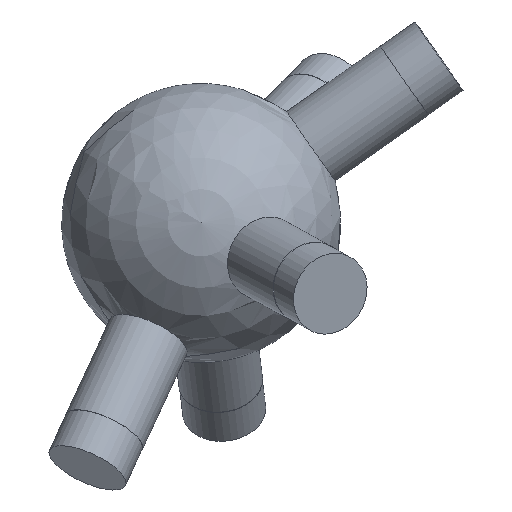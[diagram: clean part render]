
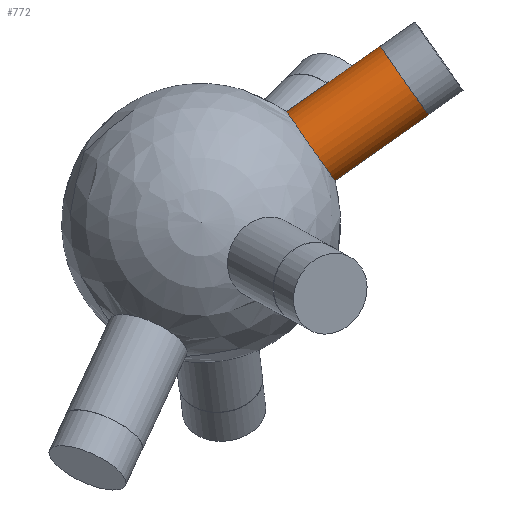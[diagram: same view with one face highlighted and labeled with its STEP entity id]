
A CAD part, top view. The second image highlights one B-rep face of the part: STEP entity #772.
In plain terms, the highlighted cylindrical face has radius 6 mm (diameter 12 mm), a full revolution.
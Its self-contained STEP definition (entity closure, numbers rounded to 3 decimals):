
#33 = SPHERICAL_SURFACE('',#34,20.);
#34 = AXIS2_PLACEMENT_3D('',#35,#36,#37);
#35 = CARTESIAN_POINT('',(0.,0.,0.));
#36 = DIRECTION('',(0.,0.,1.));
#37 = DIRECTION('',(1.,0.,-0.));
#436 = EDGE_CURVE('',#437,#437,#439,.T.);
#437 = VERTEX_POINT('',#438);
#438 = CARTESIAN_POINT('',(12.172,15.868,0.194)
  );
#439 = SURFACE_CURVE('',#440,(#445,#507),.PCURVE_S1.);
#440 = CIRCLE('',#441,6.);
#441 = AXIS2_PLACEMENT_3D('',#442,#443,#444);
#442 = CARTESIAN_POINT('',(15.618,10.956,0.194)
  );
#443 = DIRECTION('',(0.819,0.574,0.01));
#444 = DIRECTION('',(-0.574,0.819,0.)
  );
#445 = PCURVE('',#33,#446);
#446 = DEFINITIONAL_REPRESENTATION('',(#447),#506);
#447 = B_SPLINE_CURVE_WITH_KNOTS('',8,(#448,#449,#450,#451,#452,#453,
    #454,#455,#456,#457,#458,#459,#460,#461,#462,#463,#464,#465,#466,
    #467,#468,#469,#470,#471,#472,#473,#474,#475,#476,#477,#478,#479,
    #480,#481,#482,#483,#484,#485,#486,#487,#488,#489,#490,#491,#492,
    #493,#494,#495,#496,#497,#498,#499,#500,#501,#502,#503,#504,#505),
  .UNSPECIFIED.,.F.,.F.,(9,7,7,7,7,7,7,7,9),(0.,0.785,
    1.473,2.074,3.126,3.915,
    4.507,5.395,6.283),.UNSPECIFIED.);
#448 = CARTESIAN_POINT('',(0.916,0.01));
#449 = CARTESIAN_POINT('',(0.917,0.039));
#450 = CARTESIAN_POINT('',(0.913,0.069));
#451 = CARTESIAN_POINT('',(0.907,0.098));
#452 = CARTESIAN_POINT('',(0.898,0.126));
#453 = CARTESIAN_POINT('',(0.885,0.153));
#454 = CARTESIAN_POINT('',(0.87,0.179));
#455 = CARTESIAN_POINT('',(0.852,0.202));
#456 = CARTESIAN_POINT('',(0.813,0.242));
#457 = CARTESIAN_POINT('',(0.793,0.259));
#458 = CARTESIAN_POINT('',(0.771,0.274));
#459 = CARTESIAN_POINT('',(0.747,0.287));
#460 = CARTESIAN_POINT('',(0.722,0.297));
#461 = CARTESIAN_POINT('',(0.696,0.305));
#462 = CARTESIAN_POINT('',(0.67,0.311));
#463 = CARTESIAN_POINT('',(0.619,0.316));
#464 = CARTESIAN_POINT('',(0.595,0.316));
#465 = CARTESIAN_POINT('',(0.571,0.314));
#466 = CARTESIAN_POINT('',(0.548,0.31));
#467 = CARTESIAN_POINT('',(0.525,0.305));
#468 = CARTESIAN_POINT('',(0.502,0.297));
#469 = CARTESIAN_POINT('',(0.481,0.287));
#470 = CARTESIAN_POINT('',(0.425,0.256));
#471 = CARTESIAN_POINT('',(0.393,0.231));
#472 = CARTESIAN_POINT('',(0.365,0.201));
#473 = CARTESIAN_POINT('',(0.343,0.168));
#474 = CARTESIAN_POINT('',(0.325,0.132));
#475 = CARTESIAN_POINT('',(0.314,0.093));
#476 = CARTESIAN_POINT('',(0.308,0.054));
#477 = CARTESIAN_POINT('',(0.307,-0.015));
#478 = CARTESIAN_POINT('',(0.31,-0.045));
#479 = CARTESIAN_POINT('',(0.316,-0.074));
#480 = CARTESIAN_POINT('',(0.325,-0.103));
#481 = CARTESIAN_POINT('',(0.337,-0.13));
#482 = CARTESIAN_POINT('',(0.352,-0.156));
#483 = CARTESIAN_POINT('',(0.37,-0.18));
#484 = CARTESIAN_POINT('',(0.406,-0.218));
#485 = CARTESIAN_POINT('',(0.423,-0.232));
#486 = CARTESIAN_POINT('',(0.442,-0.246));
#487 = CARTESIAN_POINT('',(0.461,-0.258));
#488 = CARTESIAN_POINT('',(0.482,-0.268));
#489 = CARTESIAN_POINT('',(0.503,-0.277));
#490 = CARTESIAN_POINT('',(0.525,-0.283));
#491 = CARTESIAN_POINT('',(0.582,-0.295));
#492 = CARTESIAN_POINT('',(0.617,-0.298));
#493 = CARTESIAN_POINT('',(0.652,-0.296));
#494 = CARTESIAN_POINT('',(0.687,-0.29));
#495 = CARTESIAN_POINT('',(0.721,-0.279));
#496 = CARTESIAN_POINT('',(0.752,-0.265));
#497 = CARTESIAN_POINT('',(0.781,-0.246));
#498 = CARTESIAN_POINT('',(0.833,-0.203));
#499 = CARTESIAN_POINT('',(0.856,-0.179));
#500 = CARTESIAN_POINT('',(0.876,-0.151));
#501 = CARTESIAN_POINT('',(0.892,-0.121));
#502 = CARTESIAN_POINT('',(0.904,-0.09));
#503 = CARTESIAN_POINT('',(0.912,-0.057));
#504 = CARTESIAN_POINT('',(0.916,-0.024));
#505 = CARTESIAN_POINT('',(0.916,0.01));
#506 = ( GEOMETRIC_REPRESENTATION_CONTEXT(2) 
PARAMETRIC_REPRESENTATION_CONTEXT() REPRESENTATION_CONTEXT('2D SPACE',''
  ) );
#507 = PCURVE('',#508,#513);
#508 = CYLINDRICAL_SURFACE('',#509,6.);
#509 = AXIS2_PLACEMENT_3D('',#510,#511,#512);
#510 = CARTESIAN_POINT('',(0.,0.,0.));
#511 = DIRECTION('',(0.819,0.574,0.01));
#512 = DIRECTION('',(-0.574,0.819,0.)
  );
#513 = DEFINITIONAL_REPRESENTATION('',(#514),#518);
#514 = LINE('',#515,#516);
#515 = CARTESIAN_POINT('',(0.,19.079));
#516 = VECTOR('',#517,1.);
#517 = DIRECTION('',(1.,0.));
#518 = ( GEOMETRIC_REPRESENTATION_CONTEXT(2) 
PARAMETRIC_REPRESENTATION_CONTEXT() REPRESENTATION_CONTEXT('2D SPACE',''
  ) );
#772 = ADVANCED_FACE('',(#773),#508,.T.);
#773 = FACE_BOUND('',#774,.T.);
#774 = EDGE_LOOP('',(#775,#798,#825,#826));
#775 = ORIENTED_EDGE('',*,*,#776,.T.);
#776 = EDGE_CURVE('',#437,#777,#779,.T.);
#777 = VERTEX_POINT('',#778);
#778 = CARTESIAN_POINT('',(25.48,25.204,0.359
    ));
#779 = SEAM_CURVE('',#780,(#784,#791),.PCURVE_S1.);
#780 = LINE('',#781,#782);
#781 = CARTESIAN_POINT('',(-3.446,4.912,
    0.));
#782 = VECTOR('',#783,1.);
#783 = DIRECTION('',(0.819,0.574,0.01));
#784 = PCURVE('',#508,#785);
#785 = DEFINITIONAL_REPRESENTATION('',(#786),#790);
#786 = LINE('',#787,#788);
#787 = CARTESIAN_POINT('',(6.283,-0.));
#788 = VECTOR('',#789,1.);
#789 = DIRECTION('',(0.,1.));
#790 = ( GEOMETRIC_REPRESENTATION_CONTEXT(2) 
PARAMETRIC_REPRESENTATION_CONTEXT() REPRESENTATION_CONTEXT('2D SPACE',''
  ) );
#791 = PCURVE('',#508,#792);
#792 = DEFINITIONAL_REPRESENTATION('',(#793),#797);
#793 = LINE('',#794,#795);
#794 = CARTESIAN_POINT('',(0.,-0.));
#795 = VECTOR('',#796,1.);
#796 = DIRECTION('',(0.,1.));
#797 = ( GEOMETRIC_REPRESENTATION_CONTEXT(2) 
PARAMETRIC_REPRESENTATION_CONTEXT() REPRESENTATION_CONTEXT('2D SPACE',''
  ) );
#798 = ORIENTED_EDGE('',*,*,#799,.F.);
#799 = EDGE_CURVE('',#777,#777,#800,.T.);
#800 = SURFACE_CURVE('',#801,(#806,#813),.PCURVE_S1.);
#801 = CIRCLE('',#802,6.);
#802 = AXIS2_PLACEMENT_3D('',#803,#804,#805);
#803 = CARTESIAN_POINT('',(28.926,20.292,0.359
    ));
#804 = DIRECTION('',(0.819,0.574,0.01));
#805 = DIRECTION('',(-0.574,0.819,0.)
  );
#806 = PCURVE('',#508,#807);
#807 = DEFINITIONAL_REPRESENTATION('',(#808),#812);
#808 = LINE('',#809,#810);
#809 = CARTESIAN_POINT('',(0.,35.336));
#810 = VECTOR('',#811,1.);
#811 = DIRECTION('',(1.,0.));
#812 = ( GEOMETRIC_REPRESENTATION_CONTEXT(2) 
PARAMETRIC_REPRESENTATION_CONTEXT() REPRESENTATION_CONTEXT('2D SPACE',''
  ) );
#813 = PCURVE('',#814,#819);
#814 = PLANE('',#815);
#815 = AXIS2_PLACEMENT_3D('',#816,#817,#818);
#816 = CARTESIAN_POINT('',(28.926,20.292,0.359
    ));
#817 = DIRECTION('',(0.819,0.574,0.01));
#818 = DIRECTION('',(-0.574,0.819,0.)
  );
#819 = DEFINITIONAL_REPRESENTATION('',(#820),#824);
#820 = CIRCLE('',#821,6.);
#821 = AXIS2_PLACEMENT_2D('',#822,#823);
#822 = CARTESIAN_POINT('',(0.,0.));
#823 = DIRECTION('',(1.,0.));
#824 = ( GEOMETRIC_REPRESENTATION_CONTEXT(2) 
PARAMETRIC_REPRESENTATION_CONTEXT() REPRESENTATION_CONTEXT('2D SPACE',''
  ) );
#825 = ORIENTED_EDGE('',*,*,#776,.F.);
#826 = ORIENTED_EDGE('',*,*,#436,.T.);
